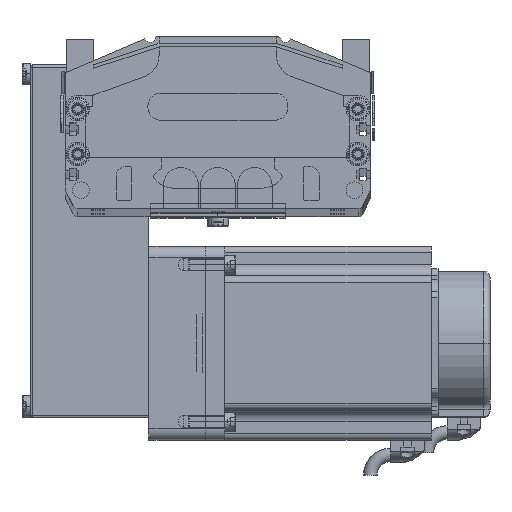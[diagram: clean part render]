
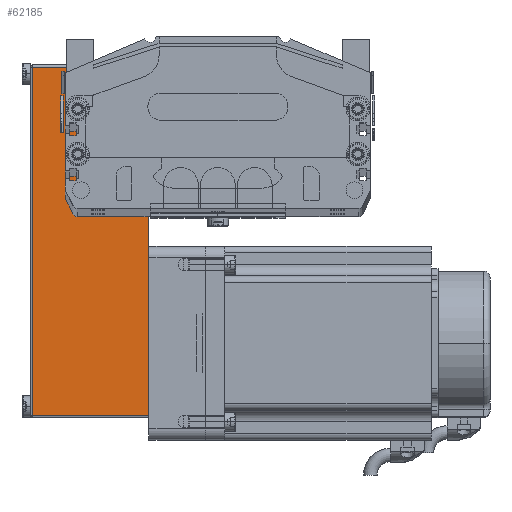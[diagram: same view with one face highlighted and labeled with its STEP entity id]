
A CAD part, top view. The second image highlights one B-rep face of the part: STEP entity #62185.
In plain terms, the highlighted planar face has unit normal (0, 0, 1) as drawn and (0, -1, 0) by its records, which use the part's own axes.
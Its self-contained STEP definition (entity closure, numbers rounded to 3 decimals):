
#11846 = CARTESIAN_POINT ( 'NONE',  ( -123.2, -40., 51.5 ) ) ;
#40111 = DIRECTION ( 'NONE',  ( -1., 0., 0. ) ) ;
#40114 = VECTOR ( 'NONE', #40111, 1000. ) ;
#40117 = CARTESIAN_POINT ( 'NONE',  ( 32., -40., 51.5 ) ) ;
#40119 = LINE ( 'NONE', #40117, #40114 ) ;
#40875 = LINE ( 'NONE', #41431, #41428 ) ;
#40876 = DIRECTION ( 'NONE',  ( 0., 0., -1. ) ) ;
#40950 = CARTESIAN_POINT ( 'NONE',  ( -123.2, -40., 52.5 ) ) ;
#40952 = LINE ( 'NONE', #40950, #41367 ) ;
#41367 = VECTOR ( 'NONE', #40876, 1000. ) ;
#41426 = DIRECTION ( 'NONE',  ( 0., 0., 1. ) ) ;
#41428 = VECTOR ( 'NONE', #41426, 1000. ) ;
#41431 = CARTESIAN_POINT ( 'NONE',  ( 31., -40., 52.5 ) ) ;
#43909 = CARTESIAN_POINT ( 'NONE',  ( 31., -40., 0. ) ) ;
#44106 = LINE ( 'NONE', #44269, #44390 ) ;
#44269 = CARTESIAN_POINT ( 'NONE',  ( 32., -40., 0. ) ) ;
#44314 = CARTESIAN_POINT ( 'NONE',  ( -123.2, -40., 0. ) ) ;
#44373 = DIRECTION ( 'NONE',  ( 1., 0., 0. ) ) ;
#44390 = VECTOR ( 'NONE', #44373, 1000. ) ;
#61247 = ORIENTED_EDGE ( 'NONE', *, *, #61278, .T. ) ;
#61249 = EDGE_CURVE ( 'NONE', #62225, #61919, #40119, .T. ) ;
#61269 = EDGE_CURVE ( 'NONE', #61919, #61536, #40952, .T. ) ;
#61278 = EDGE_CURVE ( 'NONE', #61520, #62225, #40875, .T. ) ;
#61279 = ORIENTED_EDGE ( 'NONE', *, *, #61249, .T. ) ;
#61282 = ORIENTED_EDGE ( 'NONE', *, *, #61529, .T. ) ;
#61283 = ORIENTED_EDGE ( 'NONE', *, *, #61269, .T. ) ;
#61284 = EDGE_LOOP ( 'NONE', ( #61282, #61247, #61279, #61283 ) ) ;
#61520 = VERTEX_POINT ( 'NONE', #43909 ) ;
#61529 = EDGE_CURVE ( 'NONE', #61536, #61520, #44106, .T. ) ;
#61536 = VERTEX_POINT ( 'NONE', #44314 ) ;
#61919 = VERTEX_POINT ( 'NONE', #11846 ) ;
#62185 = ADVANCED_FACE ( 'NONE', ( #68577 ), #68457, .F. ) ;
#62225 = VERTEX_POINT ( 'NONE', #76000 ) ;
#68449 = CARTESIAN_POINT ( 'NONE',  ( 32., -40., 52.5 ) ) ;
#68457 = PLANE ( 'NONE',  #68481 ) ;
#68474 = DIRECTION ( 'NONE',  ( 0., 1., 0. ) ) ;
#68481 = AXIS2_PLACEMENT_3D ( 'NONE', #68449, #68474, #68486 ) ;
#68486 = DIRECTION ( 'NONE',  ( -1., 0., 0. ) ) ;
#68577 = FACE_OUTER_BOUND ( 'NONE', #61284, .T. ) ;
#76000 = CARTESIAN_POINT ( 'NONE',  ( 31., -40., 51.5 ) ) ;
